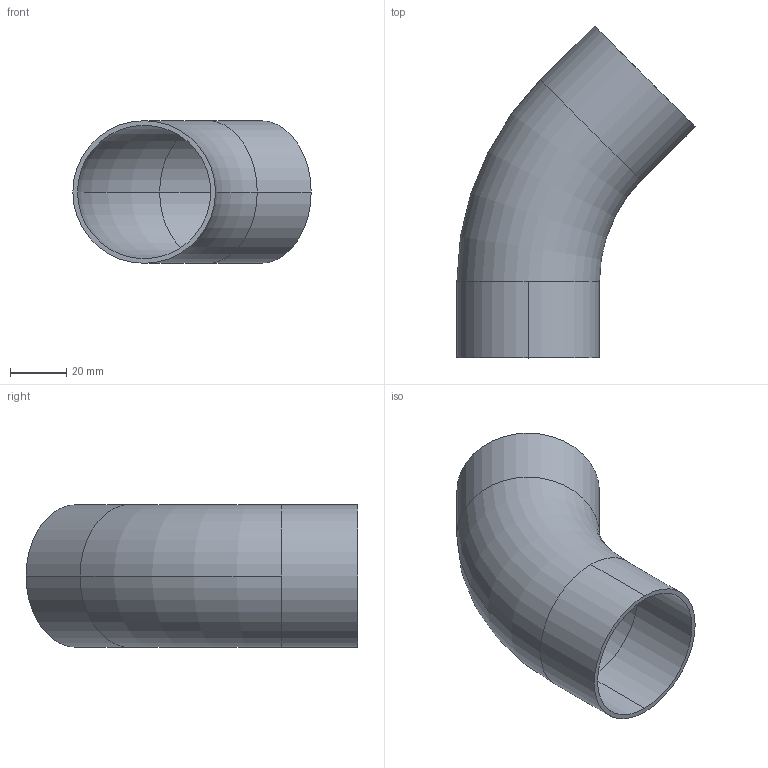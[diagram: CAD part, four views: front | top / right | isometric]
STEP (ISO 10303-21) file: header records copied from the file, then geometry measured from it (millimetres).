
FILE_DESCRIPTION (( 'STEP AP203' ), '1' );
FILE_NAME ('E2KS2.0.STEP', '2018-04-30T15:50:01', ( 'vneprd' ), ( 'Microsoft' ), 'SwSTEP 2.0', 'SolidWorks 2014', '' );
FILE_SCHEMA (( 'CONFIG_CONTROL_DESIGN' ));
Length unit declared in the file: inch
Products named in the file (1): E2KS2.0
Bounding box: 84.89 x 118.21 x 50.8 mm (x, y, z)
Volume: 29105.5 mm3; surface area: 35767.8 mm2
Topology: 1 solids, 1 shells, 14 faces, 32 edges, 20 vertices
Faces by surface type: cylinder 8, torus 4, plane 2
Entity records: 491 total; most frequent: DIRECTION 86, CARTESIAN_POINT 67, ORIENTED_EDGE 64, AXIS2_PLACEMENT_3D 39, EDGE_CURVE 32, CIRCLE 24, VERTEX_POINT 20, EDGE_LOOP 16
